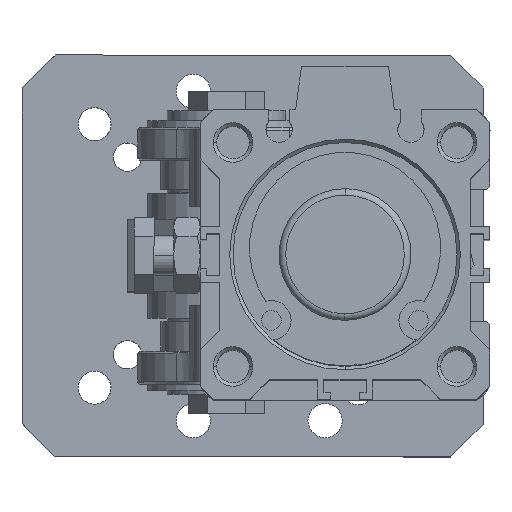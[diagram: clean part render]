
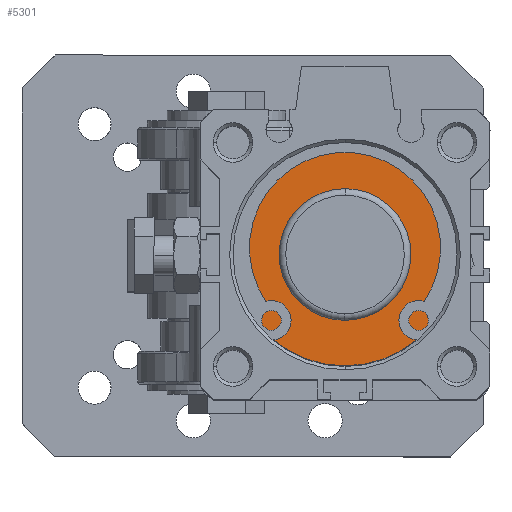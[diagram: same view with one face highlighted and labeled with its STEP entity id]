
A CAD part, top view. The second image highlights one B-rep face of the part: STEP entity #5301.
In plain terms, the highlighted planar face has unit normal (0, 0, 1).
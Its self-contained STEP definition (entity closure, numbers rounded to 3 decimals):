
#5301=ADVANCED_FACE('',(#6077,#6078),#5785,.F.);
#5785=PLANE('',#18811);
#6077=FACE_BOUND('',#7242,.T.);
#6078=FACE_BOUND('',#7243,.T.);
#7242=EDGE_LOOP('',(#12037,#12038));
#7243=EDGE_LOOP('',(#12039,#12040));
#12037=ORIENTED_EDGE('',*,*,#15970,.T.);
#12038=ORIENTED_EDGE('',*,*,#15968,.T.);
#12039=ORIENTED_EDGE('',*,*,#15971,.F.);
#12040=ORIENTED_EDGE('',*,*,#15972,.F.);
#13568=VERTEX_POINT('',#62728);
#13569=VERTEX_POINT('',#62730);
#13570=VERTEX_POINT('',#62736);
#13571=VERTEX_POINT('',#62737);
#15968=EDGE_CURVE('',#13569,#13568,#16903,.T.);
#15970=EDGE_CURVE('',#13568,#13569,#16904,.T.);
#15971=EDGE_CURVE('',#13570,#13571,#16905,.T.);
#15972=EDGE_CURVE('',#13571,#13570,#16906,.T.);
#16903=CIRCLE('',#18805,16.9);
#16904=CIRCLE('',#18807,16.9);
#16905=CIRCLE('',#18809,10.);
#16906=CIRCLE('',#18810,10.);
#18805=AXIS2_PLACEMENT_3D('',#62729,#23865,#23866);
#18807=AXIS2_PLACEMENT_3D('',#62733,#23870,#23871);
#18809=AXIS2_PLACEMENT_3D('',#62735,#23874,#23875);
#18810=AXIS2_PLACEMENT_3D('',#62738,#23876,#23877);
#18811=AXIS2_PLACEMENT_3D('',#62739,#23878,#23879);
#23865=DIRECTION('',(0.,0.,1.));
#23866=DIRECTION('',(0.011,1.,0.));
#23870=DIRECTION('',(0.,0.,1.));
#23871=DIRECTION('',(0.011,1.,0.));
#23874=DIRECTION('',(0.,0.,1.));
#23875=DIRECTION('',(0.011,1.,0.));
#23876=DIRECTION('',(0.,0.,1.));
#23877=DIRECTION('',(0.,1.,0.));
#23878=DIRECTION('',(0.,0.,-1.));
#23879=DIRECTION('',(0.011,1.,0.));
#62728=CARTESIAN_POINT('',(0.192,216.899,-3.3));
#62729=CARTESIAN_POINT('',(0.,200.,-3.3));
#62730=CARTESIAN_POINT('',(-0.192,183.101,-3.3));
#62733=CARTESIAN_POINT('',(0.,200.,-3.3));
#62735=CARTESIAN_POINT('',(0.,200.,-3.3));
#62736=CARTESIAN_POINT('',(0.113,209.999,-3.3));
#62737=CARTESIAN_POINT('',(-0.113,190.001,-3.3));
#62738=CARTESIAN_POINT('',(0.,200.,-3.3));
#62739=CARTESIAN_POINT('',(0.,200.,-3.3));
